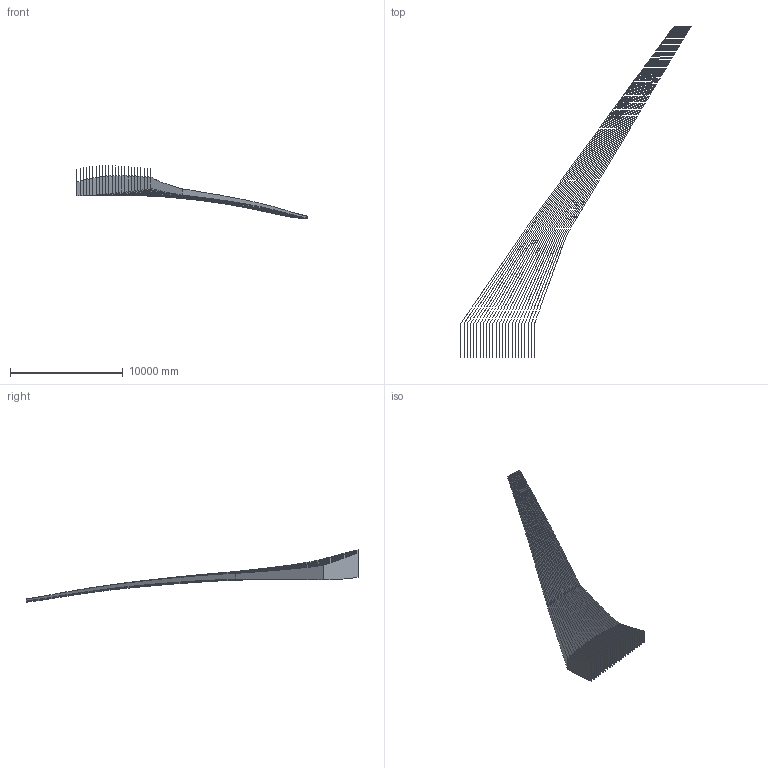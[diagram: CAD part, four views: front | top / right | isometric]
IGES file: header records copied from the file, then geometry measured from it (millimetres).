
Global section: file name: E:\temp\Stringers_chordal_thru_1.igs; native system: NX V8.5; preprocessor: SIEMENS PLM Software NX 8.5; date: 20140115.094531; units: inch
Bounding box: 20382.2 x 29381.53 x 4647.76 mm (x, y, z)
Surface area: 570497101.1 mm2 (no closed solid volume)
Topology: 0 solids, 0 shells, 72 faces, 2238 edges, 2238 vertices
Faces by surface type: bspline 72
